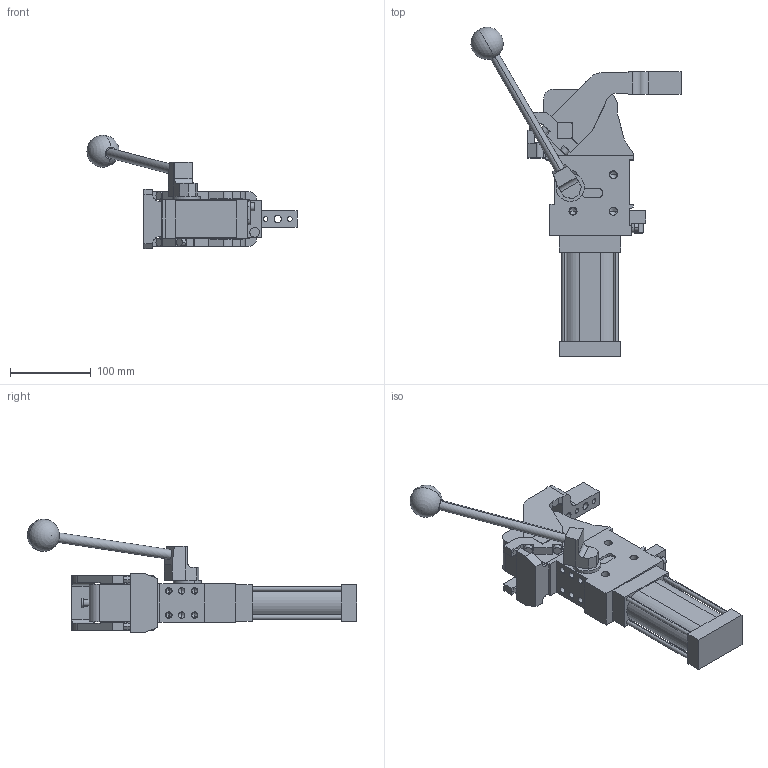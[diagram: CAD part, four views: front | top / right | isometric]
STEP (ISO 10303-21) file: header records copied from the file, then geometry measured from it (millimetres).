
FILE_DESCRIPTION (( 'STEP AP214' ), '1' );
FILE_NAME ('cplm50latv3csi1g_26.STEP', '2023-01-26T14:26:34', ( '' ), ( '' ), 'SwSTEP 2.0', 'SolidWorks 2022', '' );
FILE_SCHEMA (( 'AUTOMOTIVE_DESIGN' ));
Length unit declared in the file: millimetre
Products named in the file (5): meccanica_cplm_50_tassello_esterno; leva_v3cs_cpl50t; cplm50latv3csi1g_26; blocchetto_VEP_0; comando_manuale_cplm_50
Assembly tree (4 placements, depth 2):
  cplm50latv3csi1g_26
    meccanica_cplm_50_tassello_esterno
    blocchetto_VEP_0
    leva_v3cs_cpl50t
    comando_manuale_cplm_50
Bounding box: 260.57 x 408.56 x 141 mm (x, y, z)
Volume: 1512957.1 mm3; surface area: 193013.7 mm2
Topology: 4 solids, 4 shells, 470 faces, 1219 edges, 765 vertices
Faces by surface type: plane 245, cylinder 173, cone 50, sphere 2
Entity records: 15624 total; most frequent: DIRECTION 2484, CARTESIAN_POINT 2483, ORIENTED_EDGE 2336, EDGE_CURVE 1168, AXIS2_PLACEMENT_3D 845, VECTOR 794, LINE 794, VERTEX_POINT 762
